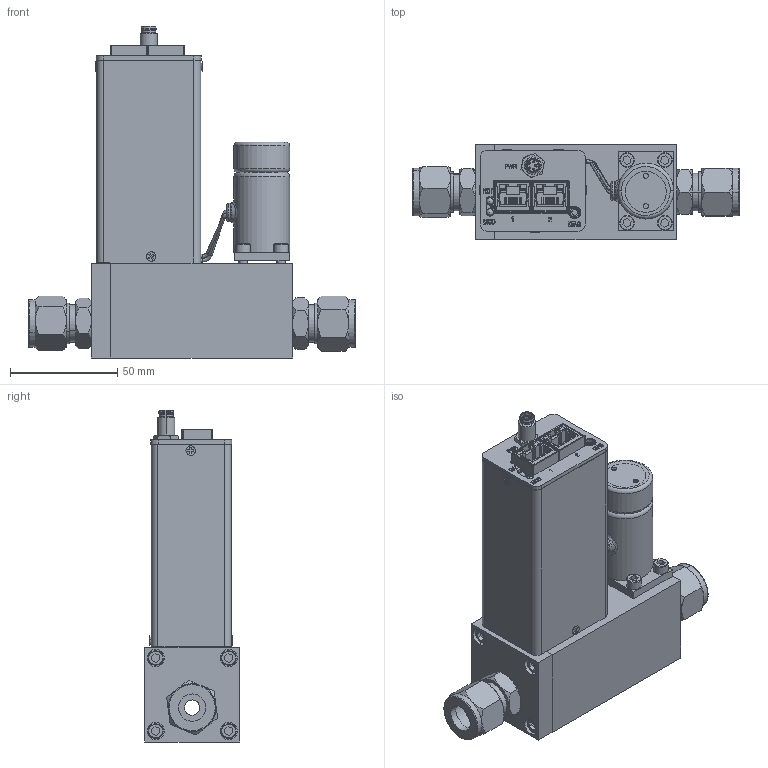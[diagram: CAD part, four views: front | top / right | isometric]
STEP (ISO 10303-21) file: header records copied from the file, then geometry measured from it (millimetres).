
FILE_DESCRIPTION (( 'STEP AP214' ), '1' );
FILE_NAME ('SLA5851-7-1P-1-A-REVB.STEP', '2023-04-27T14:24:48', ( '' ), ( '' ), 'SwSTEP 2.0', 'SolidWorks 2020', '' );
FILE_SCHEMA (( 'AUTOMOTIVE_DESIGN' ));
Length unit declared in the file: inch
Products named in the file (1): SLA5851-7-1P-1-A-REVB
Bounding box: 151.97 x 44.3 x 154.44 mm (x, y, z)
Volume: 84067.8 mm3; surface area: 123549.7 mm2
Topology: 60 solids, 60 shells, 2350 faces, 6147 edges, 3993 vertices
Faces by surface type: plane 1487, cylinder 568, cone 148, torus 70, bspline 65, sphere 12
Entity records: 78248 total; most frequent: CARTESIAN_POINT 19394, ORIENTED_EDGE 12262, DIRECTION 11684, EDGE_CURVE 6131, VECTOR 4338, LINE 4338, VERTEX_POINT 3989, AXIS2_PLACEMENT_3D 3673
